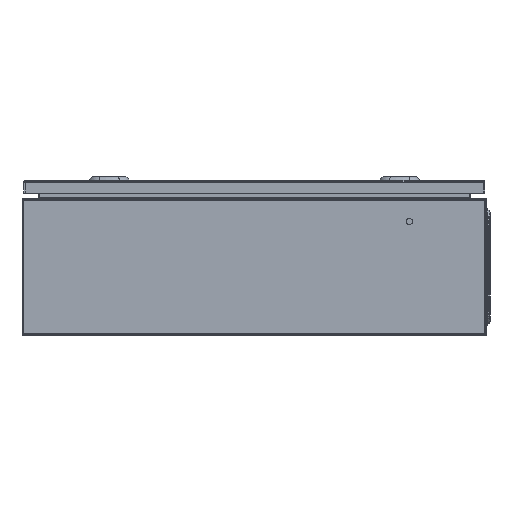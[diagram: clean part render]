
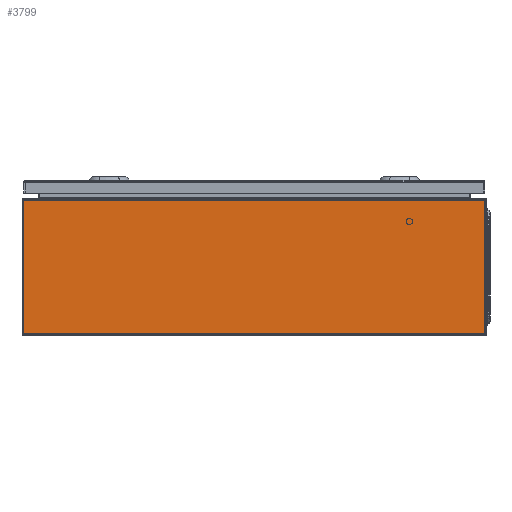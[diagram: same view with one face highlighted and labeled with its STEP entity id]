
A CAD part, left-side view. The second image highlights one B-rep face of the part: STEP entity #3799.
In plain terms, the highlighted planar face has unit normal (-1, 0, 0).
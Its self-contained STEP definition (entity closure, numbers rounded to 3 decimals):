
#5 = EDGE_LOOP ( 'NONE', ( #23288, #11558, #22468, #20362 ) ) ;
#265 = DIRECTION ( 'NONE',  ( 0., 0., -1. ) ) ;
#820 = DIRECTION ( 'NONE',  ( 0., -1., 0. ) ) ;
#941 = CARTESIAN_POINT ( 'NONE',  ( -300., -300., 2.35 ) ) ;
#960 = CARTESIAN_POINT ( 'NONE',  ( -300., 297.5, 2.35 ) ) ;
#1821 = CARTESIAN_POINT ( 'NONE',  ( -300., -297.5, 2.35 ) ) ;
#2415 = VERTEX_POINT ( 'NONE', #8019 ) ;
#2445 = DIRECTION ( 'NONE',  ( 0., -1., 0. ) ) ;
#3056 = VECTOR ( 'NONE', #2445, 1000. ) ;
#3121 = DIRECTION ( 'NONE',  ( 0., 0., 1. ) ) ;
#3799 = ADVANCED_FACE ( 'NONE', ( #6112 ), #19493, .F. ) ;
#4270 = LINE ( 'NONE', #7796, #3056 ) ;
#5243 = VECTOR ( 'NONE', #3121, 1000. ) ;
#5771 = VECTOR ( 'NONE', #265, 1000. ) ;
#6112 = FACE_OUTER_BOUND ( 'NONE', #5, .T. ) ;
#7796 = CARTESIAN_POINT ( 'NONE',  ( -300., 300., 174.5 ) ) ;
#8019 = CARTESIAN_POINT ( 'NONE',  ( -300., 297.5, 174.5 ) ) ;
#8408 = DIRECTION ( 'NONE',  ( 0., 0., -1. ) ) ;
#9345 = LINE ( 'NONE', #20298, #5771 ) ;
#9367 = EDGE_CURVE ( 'NONE', #22273, #17449, #12239, .T. ) ;
#11558 = ORIENTED_EDGE ( 'NONE', *, *, #22991, .T. ) ;
#12239 = LINE ( 'NONE', #12367, #5243 ) ;
#12367 = CARTESIAN_POINT ( 'NONE',  ( -300., -297.5, 1.5 ) ) ;
#13940 = LINE ( 'NONE', #941, #21743 ) ;
#14102 = AXIS2_PLACEMENT_3D ( 'NONE', #19027, #17684, #8408 ) ;
#14314 = EDGE_CURVE ( 'NONE', #2415, #17449, #4270, .T. ) ;
#17449 = VERTEX_POINT ( 'NONE', #22284 ) ;
#17684 = DIRECTION ( 'NONE',  ( 1., 0., 0. ) ) ;
#19027 = CARTESIAN_POINT ( 'NONE',  ( -300., -300., 1.5 ) ) ;
#19493 = PLANE ( 'NONE',  #14102 ) ;
#20298 = CARTESIAN_POINT ( 'NONE',  ( -300., 297.5, 1.5 ) ) ;
#20362 = ORIENTED_EDGE ( 'NONE', *, *, #14314, .F. ) ;
#21281 = VERTEX_POINT ( 'NONE', #960 ) ;
#21743 = VECTOR ( 'NONE', #820, 1000. ) ;
#22273 = VERTEX_POINT ( 'NONE', #1821 ) ;
#22284 = CARTESIAN_POINT ( 'NONE',  ( -300., -297.5, 174.5 ) ) ;
#22368 = EDGE_CURVE ( 'NONE', #2415, #21281, #9345, .T. ) ;
#22468 = ORIENTED_EDGE ( 'NONE', *, *, #9367, .T. ) ;
#22991 = EDGE_CURVE ( 'NONE', #21281, #22273, #13940, .T. ) ;
#23288 = ORIENTED_EDGE ( 'NONE', *, *, #22368, .T. ) ;
